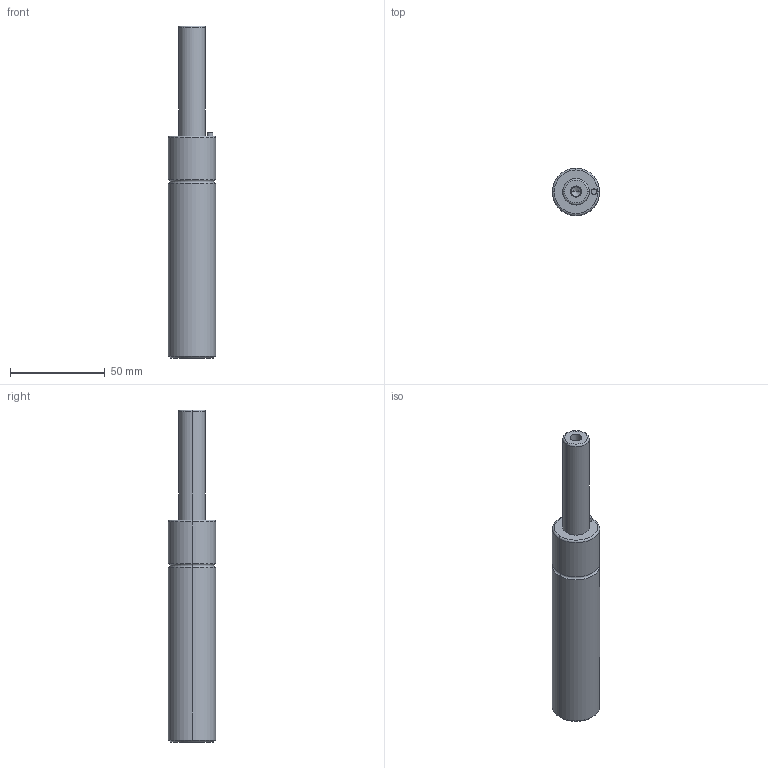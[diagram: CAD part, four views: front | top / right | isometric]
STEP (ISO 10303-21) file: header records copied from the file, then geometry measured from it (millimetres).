
FILE_DESCRIPTION(/* description */ (''),/* implementation_level */ '2;1');
FILE_NAME(/* name */ '3d_gsm25-56_03917_r00.stp',/* time_stamp */ '2011-01-10T14:15:17+09:00',/* author */ ('MISUMI'),/* organization */ (''),/* preprocessor_version */ 'ST-DEVELOPER v11',/* originating_system */ 'UGS - NX 5.0',/* authorisation */ '');
FILE_SCHEMA (('CONFIG_CONTROL_DESIGN'));
Length unit declared in the file: millimetre
Products named in the file (1): 3d_gsm25-56_03917_r00
Bounding box: 25 x 25 x 175 mm (x, y, z)
Volume: 65649.2 mm3; surface area: 13081.6 mm2
Topology: 1 solids, 1 shells, 34 faces, 70 edges, 40 vertices
Faces by surface type: cylinder 16, cone 6, plane 6, torus 6
Entity records: 964 total; most frequent: DIRECTION 180, CARTESIAN_POINT 141, ORIENTED_EDGE 132, AXIS2_PLACEMENT_3D 79, EDGE_CURVE 66, CIRCLE 44, EDGE_LOOP 40, VERTEX_POINT 40
